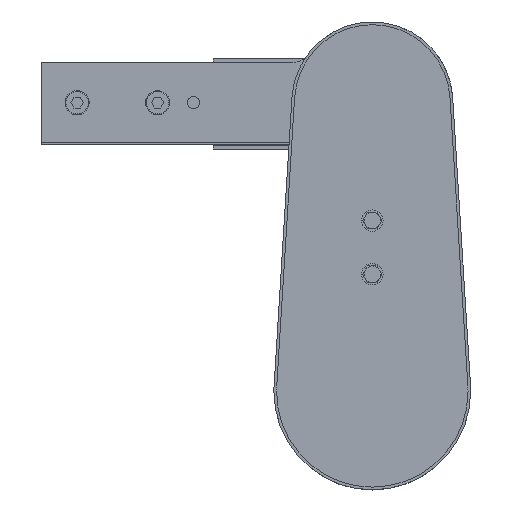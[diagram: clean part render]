
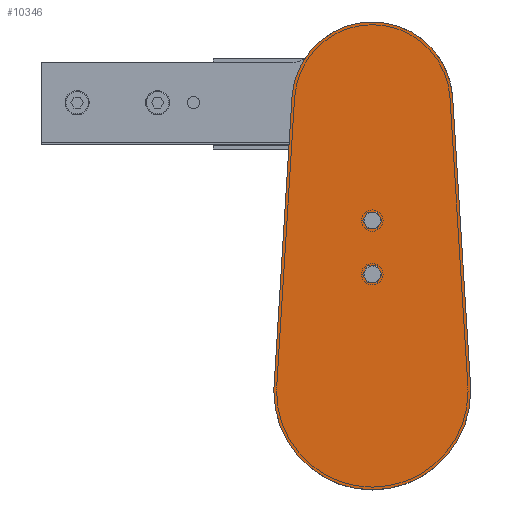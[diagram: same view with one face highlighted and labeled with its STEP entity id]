
A CAD part, top view. The second image highlights one B-rep face of the part: STEP entity #10346.
In plain terms, the highlighted planar face has unit normal (0, 0, 1) as drawn and (0, 0, -1) by its records, which use the part's own axes.
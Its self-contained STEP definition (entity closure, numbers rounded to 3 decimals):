
#1042 = CIRCLE ( 'NONE', #3622, 55. ) ;
#1419 = ORIENTED_EDGE ( 'NONE', *, *, #25308, .F. ) ;
#1713 = LINE ( 'NONE', #32050, #6774 ) ;
#1912 = AXIS2_PLACEMENT_3D ( 'NONE', #34592, #15294, #18576 ) ;
#2135 = CARTESIAN_POINT ( 'NONE',  ( -55., 0., 0. ) ) ;
#2320 = AXIS2_PLACEMENT_3D ( 'NONE', #17307, #14089, #27328 ) ;
#2362 = VECTOR ( 'NONE', #35456, 1000. ) ;
#2441 = VERTEX_POINT ( 'NONE', #11137 ) ;
#2722 = VERTEX_POINT ( 'NONE', #3216 ) ;
#2910 = DIRECTION ( 'NONE',  ( 1., 0., 0. ) ) ;
#3216 = CARTESIAN_POINT ( 'NONE',  ( -44.914, 164.286, 0. ) ) ;
#3286 = DIRECTION ( 'NONE',  ( 0., 0., -1. ) ) ;
#3622 = AXIS2_PLACEMENT_3D ( 'NONE', #9543, #25730, #2910 ) ;
#3911 = VERTEX_POINT ( 'NONE', #2135 ) ;
#3935 = AXIS2_PLACEMENT_3D ( 'NONE', #7111, #23308, #17236 ) ;
#4447 = CARTESIAN_POINT ( 'NONE',  ( 3.5, 95.5, 0. ) ) ;
#4561 = CARTESIAN_POINT ( 'NONE',  ( 0., 161.5, 0. ) ) ;
#4988 = AXIS2_PLACEMENT_3D ( 'NONE', #4561, #17665, #14151 ) ;
#5014 = DIRECTION ( 'NONE',  ( 0., 0., -1. ) ) ;
#5160 = VERTEX_POINT ( 'NONE', #29628 ) ;
#5245 = FACE_BOUND ( 'NONE', #5820, .T. ) ;
#5335 = CIRCLE ( 'NONE', #3935, 45. ) ;
#5820 = EDGE_LOOP ( 'NONE', ( #25698, #28892 ) ) ;
#6442 = EDGE_CURVE ( 'NONE', #34375, #39475, #13157, .T. ) ;
#6774 = VECTOR ( 'NONE', #38662, 1000. ) ;
#7111 = CARTESIAN_POINT ( 'NONE',  ( 0., 161.5, 0. ) ) ;
#7185 = CIRCLE ( 'NONE', #26535, 3.5 ) ;
#8215 = EDGE_LOOP ( 'NONE', ( #27786, #12337 ) ) ;
#8518 = VERTEX_POINT ( 'NONE', #10294 ) ;
#8757 = CIRCLE ( 'NONE', #37492, 3.5 ) ;
#9527 = CIRCLE ( 'NONE', #2320, 55. ) ;
#9543 = CARTESIAN_POINT ( 'NONE',  ( 0., 0., 0. ) ) ;
#10213 = VERTEX_POINT ( 'NONE', #39485 ) ;
#10294 = CARTESIAN_POINT ( 'NONE',  ( -54.894, 3.406, 0. ) ) ;
#10346 = ADVANCED_FACE ( 'NONE', ( #5245, #37015, #28483 ), #14438, .F. ) ;
#11137 = CARTESIAN_POINT ( 'NONE',  ( 55., 0., 0. ) ) ;
#11161 = CARTESIAN_POINT ( 'NONE',  ( 3.5, 65.5, 0. ) ) ;
#11374 = EDGE_CURVE ( 'NONE', #12350, #2722, #5335, .T. ) ;
#12337 = ORIENTED_EDGE ( 'NONE', *, *, #27757, .F. ) ;
#12350 = VERTEX_POINT ( 'NONE', #12398 ) ;
#12398 = CARTESIAN_POINT ( 'NONE',  ( 44.914, 164.286, 0. ) ) ;
#12653 = ORIENTED_EDGE ( 'NONE', *, *, #21522, .F. ) ;
#12705 = AXIS2_PLACEMENT_3D ( 'NONE', #13027, #22729, #35669 ) ;
#12972 = CARTESIAN_POINT ( 'NONE',  ( 44.914, 164.286, 0. ) ) ;
#13027 = CARTESIAN_POINT ( 'NONE',  ( 0., 65.5, 0. ) ) ;
#13157 = CIRCLE ( 'NONE', #12705, 3.5 ) ;
#13843 = ORIENTED_EDGE ( 'NONE', *, *, #24795, .F. ) ;
#14089 = DIRECTION ( 'NONE',  ( 0., 0., 1. ) ) ;
#14151 = DIRECTION ( 'NONE',  ( 1., 0., 0. ) ) ;
#14438 = PLANE ( 'NONE',  #4988 ) ;
#15196 = EDGE_CURVE ( 'NONE', #10213, #25714, #8757, .T. ) ;
#15294 = DIRECTION ( 'NONE',  ( 0., 0., 1. ) ) ;
#15455 = ORIENTED_EDGE ( 'NONE', *, *, #36968, .F. ) ;
#17236 = DIRECTION ( 'NONE',  ( 1., 0., 0. ) ) ;
#17307 = CARTESIAN_POINT ( 'NONE',  ( 0., 0., 0. ) ) ;
#17665 = DIRECTION ( 'NONE',  ( 0., 0., 1. ) ) ;
#18390 = EDGE_CURVE ( 'NONE', #25714, #10213, #28746, .T. ) ;
#18576 = DIRECTION ( 'NONE',  ( 1., 0., 0. ) ) ;
#19108 = CARTESIAN_POINT ( 'NONE',  ( -3.5, 65.5, 0. ) ) ;
#19468 = CIRCLE ( 'NONE', #1912, 55. ) ;
#19491 = DIRECTION ( 'NONE',  ( 1., 0., 0. ) ) ;
#21522 = EDGE_CURVE ( 'NONE', #3911, #2441, #9527, .T. ) ;
#22594 = CARTESIAN_POINT ( 'NONE',  ( 0., 65.5, 0. ) ) ;
#22729 = DIRECTION ( 'NONE',  ( 0., 0., -1. ) ) ;
#23038 = LINE ( 'NONE', #12972, #2362 ) ;
#23308 = DIRECTION ( 'NONE',  ( 0., 0., 1. ) ) ;
#24795 = EDGE_CURVE ( 'NONE', #5160, #12350, #23038, .T. ) ;
#24861 = CARTESIAN_POINT ( 'NONE',  ( 0., 95.5, 0. ) ) ;
#25308 = EDGE_CURVE ( 'NONE', #8518, #3911, #19468, .T. ) ;
#25698 = ORIENTED_EDGE ( 'NONE', *, *, #18390, .F. ) ;
#25714 = VERTEX_POINT ( 'NONE', #4447 ) ;
#25730 = DIRECTION ( 'NONE',  ( 0., 0., 1. ) ) ;
#26535 = AXIS2_PLACEMENT_3D ( 'NONE', #22594, #3286, #19491 ) ;
#27328 = DIRECTION ( 'NONE',  ( 1., 0., 0. ) ) ;
#27378 = DIRECTION ( 'NONE',  ( 0., 0., -1. ) ) ;
#27705 = DIRECTION ( 'NONE',  ( 1., 0., 0. ) ) ;
#27710 = ORIENTED_EDGE ( 'NONE', *, *, #11374, .F. ) ;
#27757 = EDGE_CURVE ( 'NONE', #39475, #34375, #7185, .T. ) ;
#27786 = ORIENTED_EDGE ( 'NONE', *, *, #6442, .F. ) ;
#27798 = CARTESIAN_POINT ( 'NONE',  ( 0., 95.5, 0. ) ) ;
#28483 = FACE_OUTER_BOUND ( 'NONE', #37301, .T. ) ;
#28746 = CIRCLE ( 'NONE', #31389, 3.5 ) ;
#28892 = ORIENTED_EDGE ( 'NONE', *, *, #15196, .F. ) ;
#28923 = EDGE_CURVE ( 'NONE', #2441, #5160, #1042, .T. ) ;
#29628 = CARTESIAN_POINT ( 'NONE',  ( 54.894, 3.406, 0. ) ) ;
#31389 = AXIS2_PLACEMENT_3D ( 'NONE', #24861, #5014, #27705 ) ;
#32050 = CARTESIAN_POINT ( 'NONE',  ( -44.914, 164.286, 0. ) ) ;
#34375 = VERTEX_POINT ( 'NONE', #11161 ) ;
#34592 = CARTESIAN_POINT ( 'NONE',  ( 0., 0., 0. ) ) ;
#35456 = DIRECTION ( 'NONE',  ( -0.062, 0.998, 0. ) ) ;
#35669 = DIRECTION ( 'NONE',  ( 1., 0., 0. ) ) ;
#36968 = EDGE_CURVE ( 'NONE', #2722, #8518, #1713, .T. ) ;
#37015 = FACE_BOUND ( 'NONE', #8215, .T. ) ;
#37073 = DIRECTION ( 'NONE',  ( 1., 0., 0. ) ) ;
#37301 = EDGE_LOOP ( 'NONE', ( #27710, #13843, #38656, #12653, #1419, #15455 ) ) ;
#37492 = AXIS2_PLACEMENT_3D ( 'NONE', #27798, #27378, #37073 ) ;
#38656 = ORIENTED_EDGE ( 'NONE', *, *, #28923, .F. ) ;
#38662 = DIRECTION ( 'NONE',  ( -0.062, -0.998, 0. ) ) ;
#39475 = VERTEX_POINT ( 'NONE', #19108 ) ;
#39485 = CARTESIAN_POINT ( 'NONE',  ( -3.5, 95.5, 0. ) ) ;
